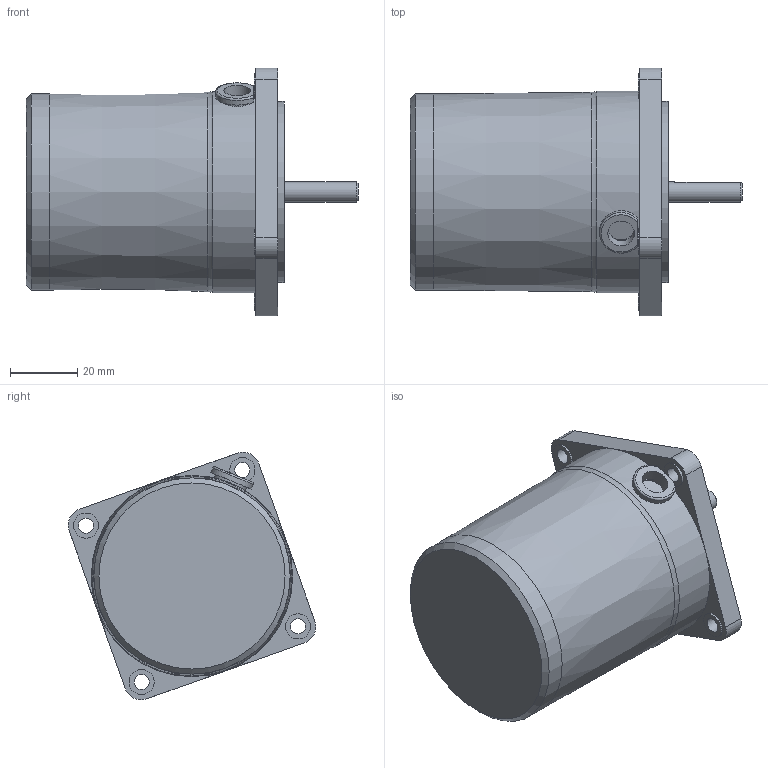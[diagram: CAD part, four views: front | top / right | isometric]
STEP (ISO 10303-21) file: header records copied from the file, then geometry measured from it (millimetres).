
FILE_DESCRIPTION((''),'2;1');
FILE_NAME('D:\STP파일\6W MOTOR\S6I06D.stp','2013-05-20T15:44:35',('leebh'),(''),'Autodesk Inventor 2011','Autodesk Inventor 2011','');
FILE_SCHEMA(('AUTOMOTIVE_DESIGN { 1 0 10303 214 1 1 1 1 }'));
Length unit declared in the file: millimetre
Products named in the file (1): 부품1
Bounding box: 99 x 73.86 x 73.86 mm (x, y, z)
Volume: 209956.9 mm3; surface area: 23678.8 mm2
Topology: 1 solids, 2 shells, 86 faces, 214 edges, 140 vertices
Faces by surface type: plane 52, cylinder 29, cone 3, torus 2
Full cylindrical faces by diameter (mm): 4.5 x4, 6 x1, 7.5 x4, 8 x1, 10.1 x1, 25 x1, 54 x1, 58.5 x1, 60 x1
Entity records: 2548 total; most frequent: CARTESIAN_POINT 474, DIRECTION 441, ORIENTED_EDGE 386, EDGE_CURVE 193, AXIS2_PLACEMENT_3D 167, VERTEX_POINT 137, EDGE_LOOP 124, VECTOR 107
